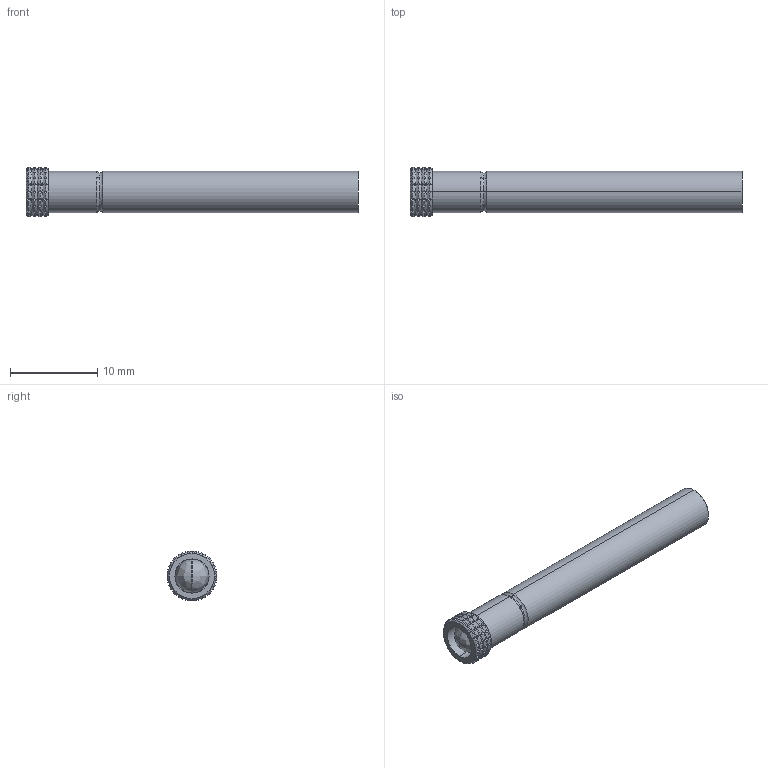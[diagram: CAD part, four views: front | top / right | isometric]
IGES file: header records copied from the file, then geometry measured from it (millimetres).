
Start section: SolidWorks IGES file using analytic representation for surfaces
Global section: file name: O:\PYLON\IGES FILES\P4301\P4301-1R FULL.IGS; native system: SolidWorks 2015; preprocessor: SolidWorks 2015; author: kgolden; date: 171020.121835; units: inch
Bounding box: 38.13 x 5.7 x 5.7 mm (x, y, z)
Surface area: 1009.1 mm2 (no closed solid volume)
Topology: 0 solids, 0 shells, 346 faces, 1514 edges, 1510 vertices
Faces by surface type: bspline 174, revolution 172
